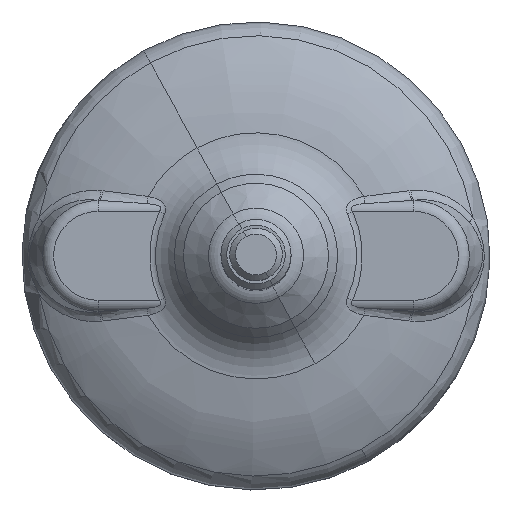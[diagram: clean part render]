
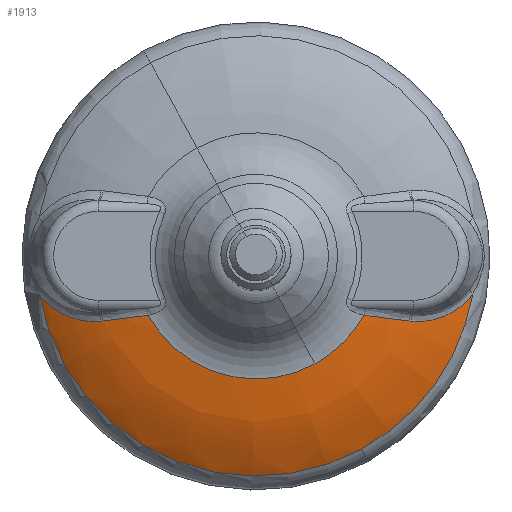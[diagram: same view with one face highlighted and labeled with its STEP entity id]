
A CAD part, top view. The second image highlights one B-rep face of the part: STEP entity #1913.
In plain terms, the highlighted face is a revolution surface.
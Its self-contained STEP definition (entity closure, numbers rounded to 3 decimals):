
#1379=CARTESIAN_POINT('Vertex',(37.066,-6.513,9.25)) ;
#1533=CARTESIAN_POINT('Axis2P3D Location',(0.,0.,9.25)) ;
#1537=CARTESIAN_POINT('Vertex',(18.043,-33.027,9.25)) ;
#1673=CARTESIAN_POINT('Vertex',(26.441,-11.158,13.365)) ;
#1677=CARTESIAN_POINT('Control Point',(26.441,-11.158,13.365)) ;
#1678=CARTESIAN_POINT('Control Point',(27.14,-11.231,13.151)) ;
#1679=CARTESIAN_POINT('Control Point',(27.848,-11.251,12.924)) ;
#1680=CARTESIAN_POINT('Control Point',(28.562,-11.218,12.685)) ;
#1681=CARTESIAN_POINT('Control Point',(29.84,-11.062,12.239)) ;
#1682=CARTESIAN_POINT('Control Point',(31.115,-10.724,11.764)) ;
#1683=CARTESIAN_POINT('Control Point',(31.674,-10.539,11.55)) ;
#1684=CARTESIAN_POINT('Control Point',(32.73,-10.113,11.135)) ;
#1685=CARTESIAN_POINT('Control Point',(33.761,-9.542,10.71)) ;
#1686=CARTESIAN_POINT('Control Point',(34.245,-9.235,10.506)) ;
#1687=CARTESIAN_POINT('Control Point',(35.132,-8.592,10.126)) ;
#1688=CARTESIAN_POINT('Control Point',(35.974,-7.81,9.751)) ;
#1689=CARTESIAN_POINT('Control Point',(36.354,-7.413,9.579)) ;
#1690=CARTESIAN_POINT('Control Point',(36.72,-6.981,9.411)) ;
#1691=CARTESIAN_POINT('Control Point',(37.066,-6.513,9.25)) ;
#1799=CARTESIAN_POINT('Control Point',(-18.043,33.027,9.25)) ;
#1800=CARTESIAN_POINT('Control Point',(-16.239,29.725,11.582)) ;
#1801=CARTESIAN_POINT('Control Point',(-14.27,26.12,13.36)) ;
#1802=CARTESIAN_POINT('Control Point',(-12.195,22.323,14.504)) ;
#1803=CARTESIAN_POINT('Control Point',(-10.086,18.462,15.)) ;
#1804=CARTESIAN_POINT('Axis1P Location',(0.,0.,-24.749)) ;
#1838=CARTESIAN_POINT('Axis2P3D Location',(0.,0.,9.25)) ;
#1842=CARTESIAN_POINT('Vertex',(-37.066,-6.513,9.25)) ;
#1846=CARTESIAN_POINT('Control Point',(26.441,-11.158,13.365)) ;
#1847=CARTESIAN_POINT('Control Point',(26.339,-11.147,13.396)) ;
#1848=CARTESIAN_POINT('Control Point',(26.237,-11.137,13.427)) ;
#1849=CARTESIAN_POINT('Control Point',(26.134,-11.126,13.458)) ;
#1850=CARTESIAN_POINT('Vertex',(26.134,-11.126,13.458)) ;
#1854=CARTESIAN_POINT('Control Point',(18.427,-10.151,15.)) ;
#1855=CARTESIAN_POINT('Control Point',(20.381,-10.355,14.796)) ;
#1856=CARTESIAN_POINT('Control Point',(22.311,-10.651,14.474)) ;
#1857=CARTESIAN_POINT('Control Point',(24.228,-10.935,14.025)) ;
#1858=CARTESIAN_POINT('Control Point',(26.134,-11.126,13.458)) ;
#1859=CARTESIAN_POINT('Vertex',(18.427,-10.151,15.)) ;
#1862=CARTESIAN_POINT('Axis2P3D Location',(0.,0.,15.)) ;
#1866=CARTESIAN_POINT('Vertex',(10.086,-18.462,15.)) ;
#1869=CARTESIAN_POINT('Axis2P3D Location',(0.,0.,15.)) ;
#1873=CARTESIAN_POINT('Vertex',(-18.427,-10.151,15.)) ;
#1877=CARTESIAN_POINT('Control Point',(-26.134,-11.126,13.458)) ;
#1878=CARTESIAN_POINT('Control Point',(-24.229,-10.935,14.025)) ;
#1879=CARTESIAN_POINT('Control Point',(-22.314,-10.652,14.473)) ;
#1880=CARTESIAN_POINT('Control Point',(-20.38,-10.355,14.796)) ;
#1881=CARTESIAN_POINT('Control Point',(-18.427,-10.151,15.)) ;
#1882=CARTESIAN_POINT('Vertex',(-26.134,-11.126,13.458)) ;
#1886=CARTESIAN_POINT('Control Point',(-26.441,-11.158,13.365)) ;
#1887=CARTESIAN_POINT('Control Point',(-26.339,-11.147,13.396)) ;
#1888=CARTESIAN_POINT('Control Point',(-26.237,-11.137,13.427)) ;
#1889=CARTESIAN_POINT('Control Point',(-26.134,-11.126,13.458)) ;
#1890=CARTESIAN_POINT('Vertex',(-26.441,-11.158,13.365)) ;
#1894=CARTESIAN_POINT('Control Point',(-37.066,-6.513,9.25)) ;
#1895=CARTESIAN_POINT('Control Point',(-35.329,-8.863,10.059)) ;
#1896=CARTESIAN_POINT('Control Point',(-33.126,-10.273,11.025)) ;
#1897=CARTESIAN_POINT('Control Point',(-30.9,-11.105,11.896)) ;
#1898=CARTESIAN_POINT('Control Point',(-28.624,-11.385,12.697)) ;
#1899=CARTESIAN_POINT('Control Point',(-26.441,-11.158,13.365)) ;
#1534=DIRECTION('Axis2P3D Direction',(0.,0.,1.)) ;
#1805=DIRECTION('Axis1P Direction',(-0.,-0.,-1.)) ;
#1839=DIRECTION('Axis2P3D Direction',(0.,0.,1.)) ;
#1863=DIRECTION('Axis2P3D Direction',(0.,0.,1.)) ;
#1870=DIRECTION('Axis2P3D Direction',(0.,0.,1.)) ;
#1535=AXIS2_PLACEMENT_3D('Circle Axis2P3D',#1533,#1534,$) ;
#1840=AXIS2_PLACEMENT_3D('Circle Axis2P3D',#1838,#1839,$) ;
#1864=AXIS2_PLACEMENT_3D('Circle Axis2P3D',#1862,#1863,$) ;
#1871=AXIS2_PLACEMENT_3D('Circle Axis2P3D',#1869,#1870,$) ;
#1902=ORIENTED_EDGE('',*,*,#1844,.T.) ;
#1903=ORIENTED_EDGE('',*,*,#1539,.T.) ;
#1904=ORIENTED_EDGE('',*,*,#1692,.T.) ;
#1905=ORIENTED_EDGE('',*,*,#1852,.T.) ;
#1906=ORIENTED_EDGE('',*,*,#1861,.T.) ;
#1907=ORIENTED_EDGE('',*,*,#1868,.F.) ;
#1908=ORIENTED_EDGE('',*,*,#1875,.F.) ;
#1909=ORIENTED_EDGE('',*,*,#1884,.T.) ;
#1910=ORIENTED_EDGE('',*,*,#1892,.T.) ;
#1911=ORIENTED_EDGE('',*,*,#1900,.T.) ;
#1913=ADVANCED_FACE('PartBody',(#1912),#1807,.F.) ;
#1806=AXIS1_PLACEMENT('Revolution Surface Axis1P',#1804,#1805) ;
#1676=B_SPLINE_CURVE_WITH_KNOTS('',5,(#1677,#1678,#1679,#1680,#1681,#1682,#1683,#1684,#1685,#1686,#1687,#1688,#1689,#1690,#1691),.UNSPECIFIED.,.F.,.U.,(6,3,3,3,6),(16.532,21.285,25.021,28.41,31.368),.UNSPECIFIED.) ;
#1798=B_SPLINE_CURVE_WITH_KNOTS('',4,(#1799,#1800,#1801,#1802,#1803),.UNSPECIFIED.,.F.,.U.,(5,5),(40.636,58.345),.UNSPECIFIED.) ;
#1845=B_SPLINE_CURVE_WITH_KNOTS('',3,(#1846,#1847,#1848,#1849),.UNSPECIFIED.,.F.,.U.,(4,4),(19.617,20.077),.UNSPECIFIED.) ;
#1853=B_SPLINE_CURVE_WITH_KNOTS('',4,(#1854,#1855,#1856,#1857,#1858),.UNSPECIFIED.,.F.,.U.,(5,5),(6.921,18.133),.UNSPECIFIED.) ;
#1876=B_SPLINE_CURVE_WITH_KNOTS('',4,(#1877,#1878,#1879,#1880,#1881),.UNSPECIFIED.,.F.,.U.,(5,5),(20.75,31.959),.UNSPECIFIED.) ;
#1885=B_SPLINE_CURVE_WITH_KNOTS('',3,(#1886,#1887,#1888,#1889),.UNSPECIFIED.,.F.,.U.,(4,4),(19.617,20.078),.UNSPECIFIED.) ;
#1893=B_SPLINE_CURVE_WITH_KNOTS('',5,(#1894,#1895,#1896,#1897,#1898,#1899),.UNSPECIFIED.,.F.,.U.,(6,6),(43.774,58.613),.UNSPECIFIED.) ;
#1536=CIRCLE('generated circle',#1535,37.634) ;
#1841=CIRCLE('generated circle',#1840,37.634) ;
#1865=CIRCLE('generated circle',#1864,21.038) ;
#1872=CIRCLE('generated circle',#1871,21.038) ;
#1539=EDGE_CURVE('',#1538,#1380,#1536,.T.) ;
#1692=EDGE_CURVE('',#1380,#1674,#1676,.F.) ;
#1844=EDGE_CURVE('',#1843,#1538,#1841,.T.) ;
#1852=EDGE_CURVE('',#1674,#1851,#1845,.T.) ;
#1861=EDGE_CURVE('',#1851,#1860,#1853,.F.) ;
#1868=EDGE_CURVE('',#1867,#1860,#1865,.T.) ;
#1875=EDGE_CURVE('',#1874,#1867,#1872,.T.) ;
#1884=EDGE_CURVE('',#1874,#1883,#1876,.F.) ;
#1892=EDGE_CURVE('',#1883,#1891,#1885,.F.) ;
#1900=EDGE_CURVE('',#1891,#1843,#1893,.F.) ;
#1901=EDGE_LOOP('',(#1902,#1903,#1904,#1905,#1906,#1907,#1908,#1909,#1910,#1911)) ;
#1912=FACE_OUTER_BOUND('',#1901,.T.) ;
#1807=SURFACE_OF_REVOLUTION('homeo Torus',#1798,#1806) ;
#1380=VERTEX_POINT('',#1379) ;
#1538=VERTEX_POINT('',#1537) ;
#1674=VERTEX_POINT('',#1673) ;
#1843=VERTEX_POINT('',#1842) ;
#1851=VERTEX_POINT('',#1850) ;
#1860=VERTEX_POINT('',#1859) ;
#1867=VERTEX_POINT('',#1866) ;
#1874=VERTEX_POINT('',#1873) ;
#1883=VERTEX_POINT('',#1882) ;
#1891=VERTEX_POINT('',#1890) ;
